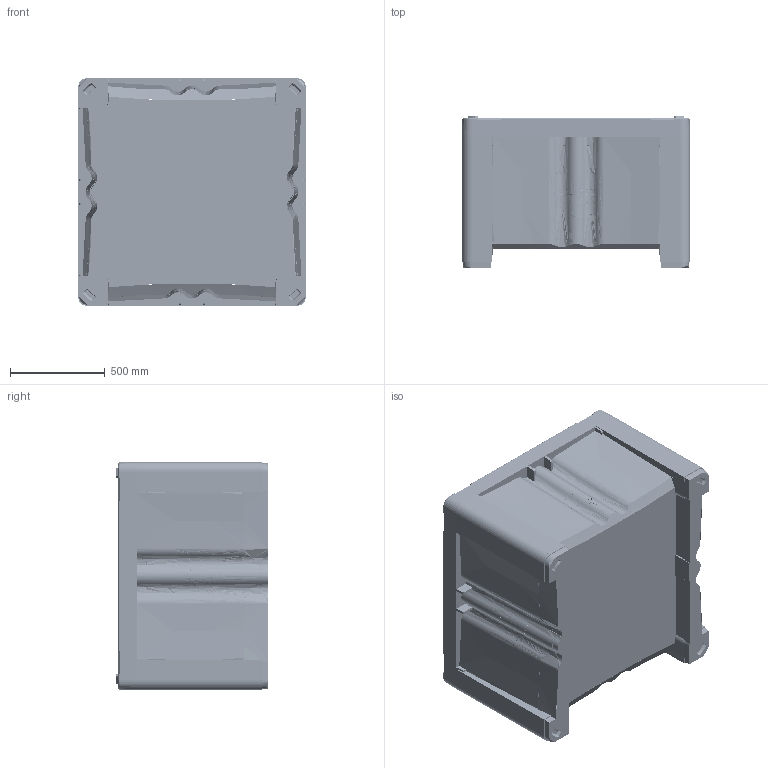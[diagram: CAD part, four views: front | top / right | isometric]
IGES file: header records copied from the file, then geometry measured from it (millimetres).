
Start section: SolidWorks IGES file using analytic representation for surfaces
Global section: file name: C:\ProdVault\Production Data\Hybrid 1212\1112xxxxxxxx 1212-790 Hybrid Block 2way.IGS; native system: SolidWorks 2018; preprocessor: SolidWorks 2018; author: Todd Turner; date: 180828.191154; units: millimetre
Bounding box: 1200 x 802.5 x 1200 mm (x, y, z)
Surface area: 11264174.4 mm2 (no closed solid volume)
Topology: 0 solids, 0 shells, 6213 faces, 101987 edges, 101958 vertices
Faces by surface type: bspline 5699, revolution 514
